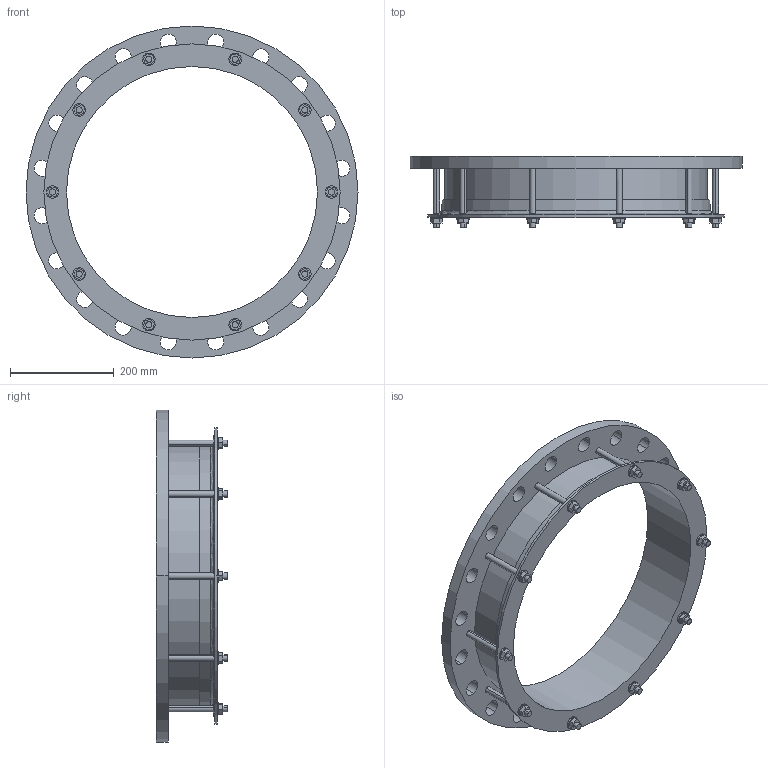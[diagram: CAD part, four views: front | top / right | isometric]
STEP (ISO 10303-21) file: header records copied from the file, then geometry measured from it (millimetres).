
FILE_DESCRIPTION((''),'2;1');
FILE_NAME('480X450PN16','2019-01-16T',('mfairey'),('Glynwed Pipe Systems'),'CREO PARAMETRIC BY PTC INC, 2016130','CREO PARAMETRIC BY PTC INC, 2016130','');
FILE_SCHEMA(('CONFIG_CONTROL_DESIGN'));
Length unit declared in the file: millimetre
Products named in the file (1): 480X450PN16
Bounding box: 640 x 137.45 x 640 mm (x, y, z)
Volume: 5199897.9 mm3; surface area: 808570.5 mm2
Topology: 1 solids, 1 shells, 208 faces, 548 edges, 364 vertices
Faces by surface type: cylinder 108, plane 94, cone 4, torus 2
Entity records: 7170 total; most frequent: CARTESIAN_POINT 1724, DIRECTION 1132, ORIENTED_EDGE 1096, EDGE_CURVE 548, AXIS2_PLACEMENT_3D 420, VERTEX_POINT 364, VECTOR 292, LINE 292
